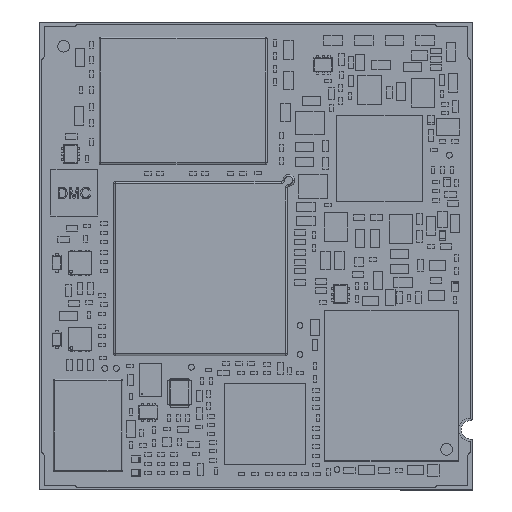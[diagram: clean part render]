
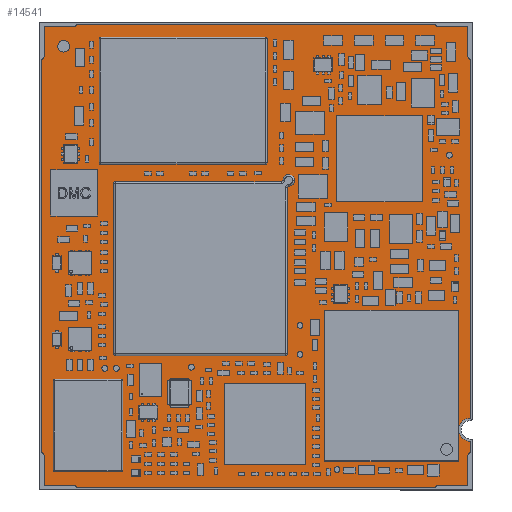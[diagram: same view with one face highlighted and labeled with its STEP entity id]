
A CAD part, top view. The second image highlights one B-rep face of the part: STEP entity #14541.
In plain terms, the highlighted planar face has unit normal (0, 0, 1).
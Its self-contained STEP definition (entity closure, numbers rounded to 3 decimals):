
#14541=ADVANCED_FACE('',(#25168),#25169,.T.);
#25168=FACE_OUTER_BOUND('',#35897,.T.);
#25169=PLANE('',#35898);
#35897=EDGE_LOOP('',(#49650,#49651,#49652,#49653,#49654,#49655,#49656,#49657,#49658,#49659,#49660,#49661,#49662,#49663,#49664,#49665,#49666,#49667,#49668,#49669,#49670,#49671));
#35898=AXIS2_PLACEMENT_3D('',#49672,#49673,#49674);
#49650=ORIENTED_EDGE('',*,*,#55255,.T.);
#49651=ORIENTED_EDGE('',*,*,#55256,.T.);
#49652=ORIENTED_EDGE('',*,*,#55257,.T.);
#49653=ORIENTED_EDGE('',*,*,#55258,.T.);
#49654=ORIENTED_EDGE('',*,*,#55259,.T.);
#49655=ORIENTED_EDGE('',*,*,#55260,.T.);
#49656=ORIENTED_EDGE('',*,*,#55261,.T.);
#49657=ORIENTED_EDGE('',*,*,#55262,.T.);
#49658=ORIENTED_EDGE('',*,*,#55263,.T.);
#49659=ORIENTED_EDGE('',*,*,#55264,.T.);
#49660=ORIENTED_EDGE('',*,*,#55265,.T.);
#49661=ORIENTED_EDGE('',*,*,#55266,.T.);
#49662=ORIENTED_EDGE('',*,*,#55267,.T.);
#49663=ORIENTED_EDGE('',*,*,#55268,.T.);
#49664=ORIENTED_EDGE('',*,*,#55269,.T.);
#49665=ORIENTED_EDGE('',*,*,#55270,.T.);
#49666=ORIENTED_EDGE('',*,*,#55271,.T.);
#49667=ORIENTED_EDGE('',*,*,#55272,.T.);
#49668=ORIENTED_EDGE('',*,*,#55273,.T.);
#49669=ORIENTED_EDGE('',*,*,#55274,.T.);
#49670=ORIENTED_EDGE('',*,*,#55275,.T.);
#49671=ORIENTED_EDGE('',*,*,#55276,.T.);
#49672=CARTESIAN_POINT('',(18.625,19.889,1.564));
#49673=DIRECTION('',(0.0,0.0,1.0));
#49674=DIRECTION('',(1.0,0.0,0.0));
#55255=EDGE_CURVE('',#61354,#61355,#61356,.T.);
#55256=EDGE_CURVE('',#61355,#61357,#61358,.T.);
#55257=EDGE_CURVE('',#61357,#61359,#61360,.T.);
#55258=EDGE_CURVE('',#61359,#61361,#61362,.T.);
#55259=EDGE_CURVE('',#61361,#61363,#61364,.T.);
#55260=EDGE_CURVE('',#61363,#61365,#61366,.T.);
#55261=EDGE_CURVE('',#61365,#61367,#61368,.T.);
#55262=EDGE_CURVE('',#61367,#61369,#61370,.T.);
#55263=EDGE_CURVE('',#61369,#61371,#61372,.T.);
#55264=EDGE_CURVE('',#61371,#61373,#61374,.T.);
#55265=EDGE_CURVE('',#61373,#61375,#61376,.T.);
#55266=EDGE_CURVE('',#61375,#61377,#61378,.T.);
#55267=EDGE_CURVE('',#61377,#61379,#61380,.T.);
#55268=EDGE_CURVE('',#61379,#61381,#61382,.T.);
#55269=EDGE_CURVE('',#61381,#61383,#61384,.T.);
#55270=EDGE_CURVE('',#61383,#61385,#61386,.T.);
#55271=EDGE_CURVE('',#61385,#61387,#61388,.T.);
#55272=EDGE_CURVE('',#61387,#61389,#61390,.T.);
#55273=EDGE_CURVE('',#61389,#61391,#61392,.T.);
#55274=EDGE_CURVE('',#61391,#61393,#61394,.T.);
#55275=EDGE_CURVE('',#61393,#61395,#61396,.T.);
#55276=EDGE_CURVE('',#61395,#61354,#61397,.T.);
#61354=VERTEX_POINT('',#69214);
#61355=VERTEX_POINT('',#69215);
#61356=CIRCLE('',#69216,0.2);
#61357=VERTEX_POINT('',#69217);
#61358=LINE('',#69218,#69219);
#61359=VERTEX_POINT('',#69220);
#61360=LINE('',#69221,#69222);
#61361=VERTEX_POINT('',#69223);
#61362=CIRCLE('',#69224,0.2);
#61363=VERTEX_POINT('',#69225);
#61364=LINE('',#69226,#69227);
#61365=VERTEX_POINT('',#69228);
#61366=CIRCLE('',#69229,0.2);
#61367=VERTEX_POINT('',#69230);
#61368=LINE('',#69231,#69232);
#61369=VERTEX_POINT('',#69233);
#61370=LINE('',#69234,#69235);
#61371=VERTEX_POINT('',#69236);
#61372=CIRCLE('',#69237,0.2);
#61373=VERTEX_POINT('',#69238);
#61374=LINE('',#69239,#69240);
#61375=VERTEX_POINT('',#69241);
#61376=CIRCLE('',#69242,1.0);
#61377=VERTEX_POINT('',#69243);
#61378=LINE('',#69244,#69245);
#61379=VERTEX_POINT('',#69246);
#61380=CIRCLE('',#69247,0.2);
#61381=VERTEX_POINT('',#69248);
#61382=LINE('',#69249,#69250);
#61383=VERTEX_POINT('',#69251);
#61384=LINE('',#69252,#69253);
#61385=VERTEX_POINT('',#69254);
#61386=CIRCLE('',#69255,0.2);
#61387=VERTEX_POINT('',#69256);
#61388=LINE('',#69257,#69258);
#61389=VERTEX_POINT('',#69259);
#61390=CIRCLE('',#69260,0.2);
#61391=VERTEX_POINT('',#69261);
#61392=LINE('',#69262,#69263);
#61393=VERTEX_POINT('',#69264);
#61394=LINE('',#69265,#69266);
#61395=VERTEX_POINT('',#69267);
#61396=CIRCLE('',#69268,0.2);
#61397=LINE('',#69269,#69270);
#69214=CARTESIAN_POINT('',(0.0,3.0,1.564));
#69215=CARTESIAN_POINT('',(0.2,2.8,1.564));
#69216=AXIS2_PLACEMENT_3D('',#74371,#74372,#74373);
#69217=CARTESIAN_POINT('',(0.2,0.2,1.564));
#69218=CARTESIAN_POINT('',(0.2,1.5,1.564));
#69219=VECTOR('',#74374,1.0);
#69220=CARTESIAN_POINT('',(2.8,0.2,1.564));
#69221=CARTESIAN_POINT('',(1.5,0.2,1.564));
#69222=VECTOR('',#74375,1.0);
#69223=CARTESIAN_POINT('',(3.0,0.,1.564));
#69224=AXIS2_PLACEMENT_3D('',#74376,#74377,#74378);
#69225=CARTESIAN_POINT('',(34.0,0.0,1.564));
#69226=CARTESIAN_POINT('',(18.5,0.,1.564));
#69227=VECTOR('',#74379,1.0);
#69228=CARTESIAN_POINT('',(34.2,0.2,1.564));
#69229=AXIS2_PLACEMENT_3D('',#74380,#74381,#74382);
#69230=CARTESIAN_POINT('',(36.8,0.2,1.564));
#69231=CARTESIAN_POINT('',(35.5,0.2,1.564));
#69232=VECTOR('',#74383,1.0);
#69233=CARTESIAN_POINT('',(36.8,2.8,1.564));
#69234=CARTESIAN_POINT('',(36.8,1.5,1.564));
#69235=VECTOR('',#74384,1.0);
#69236=CARTESIAN_POINT('',(37.0,3.0,1.564));
#69237=AXIS2_PLACEMENT_3D('',#74385,#74386,#74387);
#69238=CARTESIAN_POINT('',(37.0,4.0,1.564));
#69239=CARTESIAN_POINT('',(37.0,3.5,1.564));
#69240=VECTOR('',#74388,1.0);
#69241=CARTESIAN_POINT('',(37.0,6.0,1.564));
#69242=AXIS2_PLACEMENT_3D('',#74389,#74390,#74391);
#69243=CARTESIAN_POINT('',(37.0,37.0,1.564));
#69244=CARTESIAN_POINT('',(37.0,21.5,1.564));
#69245=VECTOR('',#74392,1.0);
#69246=CARTESIAN_POINT('',(36.8,37.2,1.564));
#69247=AXIS2_PLACEMENT_3D('',#74393,#74394,#74395);
#69248=CARTESIAN_POINT('',(36.8,39.8,1.564));
#69249=CARTESIAN_POINT('',(36.8,38.5,1.564));
#69250=VECTOR('',#74396,1.0);
#69251=CARTESIAN_POINT('',(34.2,39.8,1.564));
#69252=CARTESIAN_POINT('',(35.5,39.8,1.564));
#69253=VECTOR('',#74397,1.0);
#69254=CARTESIAN_POINT('',(34.0,40.0,1.564));
#69255=AXIS2_PLACEMENT_3D('',#74398,#74399,#74400);
#69256=CARTESIAN_POINT('',(3.0,40.0,1.564));
#69257=CARTESIAN_POINT('',(18.5,40.0,1.564));
#69258=VECTOR('',#74401,1.0);
#69259=CARTESIAN_POINT('',(2.8,39.8,1.564));
#69260=AXIS2_PLACEMENT_3D('',#74402,#74403,#74404);
#69261=CARTESIAN_POINT('',(0.2,39.8,1.564));
#69262=CARTESIAN_POINT('',(1.5,39.8,1.564));
#69263=VECTOR('',#74405,1.0);
#69264=CARTESIAN_POINT('',(0.2,37.2,1.564));
#69265=CARTESIAN_POINT('',(0.2,38.5,1.564));
#69266=VECTOR('',#74406,1.0);
#69267=CARTESIAN_POINT('',(0.,37.0,1.564));
#69268=AXIS2_PLACEMENT_3D('',#74407,#74408,#74409);
#69269=CARTESIAN_POINT('',(0.,20.0,1.564));
#69270=VECTOR('',#74410,1.0);
#74371=CARTESIAN_POINT('',(0.0,2.8,1.564));
#74372=DIRECTION('',(0.0,0.0,-1.0));
#74373=DIRECTION('',(0.0,1.0,0.0));
#74374=DIRECTION('',(0.,-1.0,0.0));
#74375=DIRECTION('',(1.0,0.,0.0));
#74376=CARTESIAN_POINT('',(2.8,0.0,1.564));
#74377=DIRECTION('',(0.0,0.0,-1.0));
#74378=DIRECTION('',(0.0,1.0,0.0));
#74379=DIRECTION('',(1.0,0.,0.0));
#74380=CARTESIAN_POINT('',(34.2,0.0,1.564));
#74381=DIRECTION('',(0.0,0.0,-1.0));
#74382=DIRECTION('',(-1.0,0.0,0.0));
#74383=DIRECTION('',(1.0,0.,0.0));
#74384=DIRECTION('',(0.0,1.0,0.0));
#74385=CARTESIAN_POINT('',(37.0,2.8,1.564));
#74386=DIRECTION('',(0.0,0.0,-1.0));
#74387=DIRECTION('',(-1.0,0.0,0.0));
#74388=DIRECTION('',(0.0,1.0,0.0));
#74389=CARTESIAN_POINT('',(37.0,5.0,1.564));
#74390=DIRECTION('',(0.0,0.0,-1.0));
#74391=DIRECTION('',(0.0,-1.0,0.0));
#74392=DIRECTION('',(0.0,1.0,0.0));
#74393=CARTESIAN_POINT('',(37.0,37.2,1.564));
#74394=DIRECTION('',(0.0,0.0,-1.0));
#74395=DIRECTION('',(0.0,-1.0,0.0));
#74396=DIRECTION('',(0.0,1.0,0.0));
#74397=DIRECTION('',(-1.0,0.0,0.0));
#74398=CARTESIAN_POINT('',(34.2,40.0,1.564));
#74399=DIRECTION('',(0.0,0.0,-1.0));
#74400=DIRECTION('',(0.0,-1.0,0.0));
#74401=DIRECTION('',(-1.0,0.0,0.0));
#74402=CARTESIAN_POINT('',(2.8,40.0,1.564));
#74403=DIRECTION('',(0.0,0.0,-1.0));
#74404=DIRECTION('',(1.0,0.0,0.0));
#74405=DIRECTION('',(-1.0,0.0,0.0));
#74406=DIRECTION('',(0.,-1.0,0.0));
#74407=CARTESIAN_POINT('',(0.0,37.2,1.564));
#74408=DIRECTION('',(0.0,0.0,-1.0));
#74409=DIRECTION('',(1.0,0.0,0.0));
#74410=DIRECTION('',(0.,-1.0,0.0));
